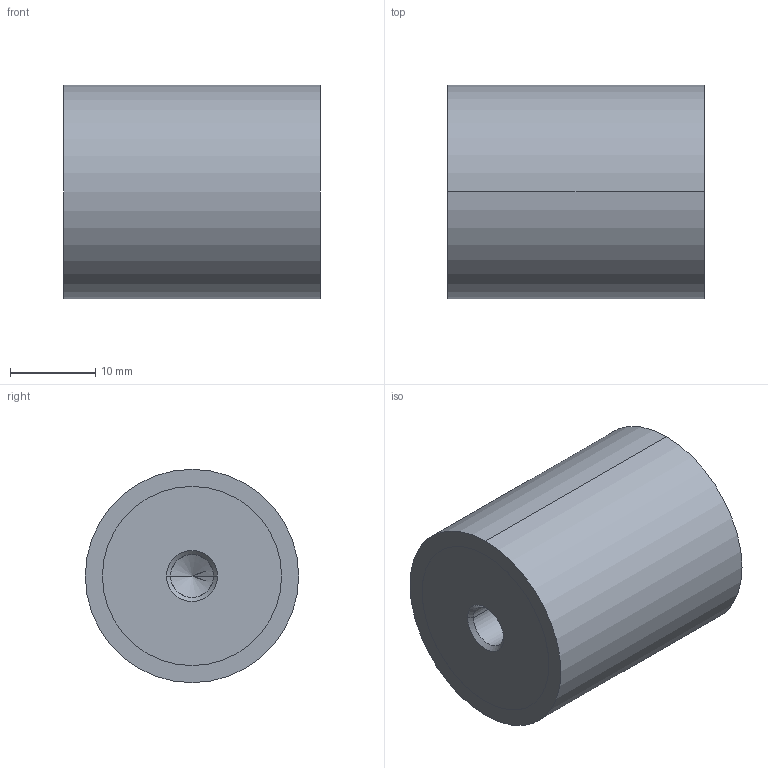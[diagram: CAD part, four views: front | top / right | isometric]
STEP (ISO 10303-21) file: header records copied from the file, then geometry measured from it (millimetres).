
FILE_DESCRIPTION (( 'STEP AP214' ), '1' );
FILE_NAME ('351-25-30-M6-EE-40.step', '2025-07-23T09:55:44', ( '' ), ( '' ), 'SwSTEP 2.0', 'SolidWorks 2022', '' );
FILE_SCHEMA (( 'AUTOMOTIVE_DESIGN' ));
Length unit declared in the file: millimetre
Products named in the file (1): 351-25-30-M6-EE-40
Bounding box: 30 x 25 x 25 mm (x, y, z)
Volume: 14422.7 mm3; surface area: 3556.1 mm2
Topology: 1 solids, 1 shells, 28 faces, 58 edges, 34 vertices
Faces by surface type: cylinder 14, cone 8, plane 6
Entity records: 844 total; most frequent: DIRECTION 144, CARTESIAN_POINT 117, ORIENTED_EDGE 108, AXIS2_PLACEMENT_3D 61, EDGE_CURVE 54, VERTEX_POINT 34, EDGE_LOOP 34, CIRCLE 32
